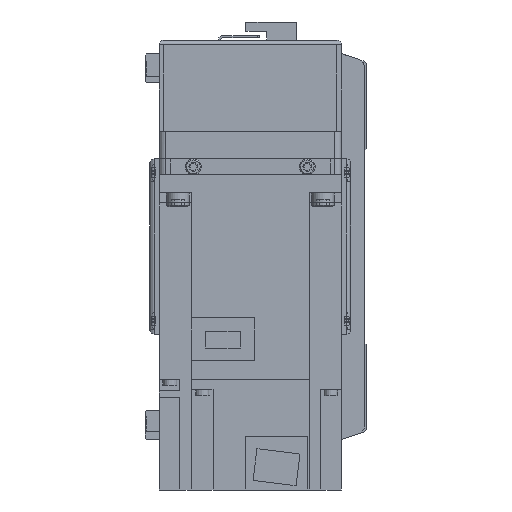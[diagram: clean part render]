
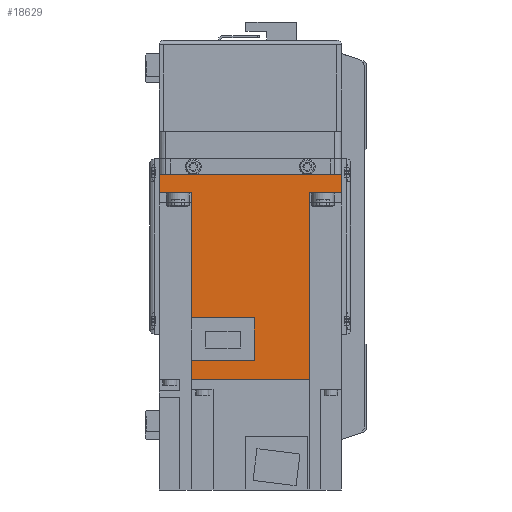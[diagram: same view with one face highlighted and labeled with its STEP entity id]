
A CAD part, left-side view. The second image highlights one B-rep face of the part: STEP entity #18629.
In plain terms, the highlighted planar face has unit normal (-1, 0, 0) as drawn and (1, 0, 0) by its records, which use the part's own axes.
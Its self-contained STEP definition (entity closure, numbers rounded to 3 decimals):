
#2077=ORIENTED_EDGE('',*,*,#7185,.F.);
#2078=ORIENTED_EDGE('',*,*,#7186,.F.);
#2079=ORIENTED_EDGE('',*,*,#7187,.F.);
#2080=ORIENTED_EDGE('',*,*,#7188,.T.);
#2081=ORIENTED_EDGE('',*,*,#7189,.F.);
#2082=ORIENTED_EDGE('',*,*,#7190,.T.);
#2083=ORIENTED_EDGE('',*,*,#7191,.T.);
#2084=ORIENTED_EDGE('',*,*,#7192,.F.);
#2085=ORIENTED_EDGE('',*,*,#7193,.F.);
#2086=ORIENTED_EDGE('',*,*,#7194,.F.);
#2087=ORIENTED_EDGE('',*,*,#7195,.F.);
#2088=ORIENTED_EDGE('',*,*,#7196,.F.);
#7185=EDGE_CURVE('',#9799,#9800,#11653,.T.);
#7186=EDGE_CURVE('',#9801,#9799,#11654,.T.);
#7187=EDGE_CURVE('',#9802,#9801,#11655,.T.);
#7188=EDGE_CURVE('',#9802,#9803,#11656,.T.);
#7189=EDGE_CURVE('',#9804,#9803,#11657,.T.);
#7190=EDGE_CURVE('',#9804,#9805,#11658,.T.);
#7191=EDGE_CURVE('',#9805,#9806,#11659,.T.);
#7192=EDGE_CURVE('',#9807,#9806,#11660,.T.);
#7193=EDGE_CURVE('',#9808,#9807,#11661,.T.);
#7194=EDGE_CURVE('',#9809,#9808,#11662,.T.);
#7195=EDGE_CURVE('',#9810,#9809,#11663,.T.);
#7196=EDGE_CURVE('',#9800,#9810,#11664,.T.);
#9799=VERTEX_POINT('',#28058);
#9800=VERTEX_POINT('',#28059);
#9801=VERTEX_POINT('',#28061);
#9802=VERTEX_POINT('',#28063);
#9803=VERTEX_POINT('',#28065);
#9804=VERTEX_POINT('',#28067);
#9805=VERTEX_POINT('',#28069);
#9806=VERTEX_POINT('',#28071);
#9807=VERTEX_POINT('',#28073);
#9808=VERTEX_POINT('',#28075);
#9809=VERTEX_POINT('',#28077);
#9810=VERTEX_POINT('',#28079);
#11653=LINE('',#28057,#13339);
#11654=LINE('',#28060,#13340);
#11655=LINE('',#28062,#13341);
#11656=LINE('',#28064,#13342);
#11657=LINE('',#28066,#13343);
#11658=LINE('',#28068,#13344);
#11659=LINE('',#28070,#13345);
#11660=LINE('',#28072,#13346);
#11661=LINE('',#28074,#13347);
#11662=LINE('',#28076,#13348);
#11663=LINE('',#28078,#13349);
#11664=LINE('',#28080,#13350);
#13339=VECTOR('',#22365,1000.);
#13340=VECTOR('',#22366,1000.);
#13341=VECTOR('',#22367,1000.);
#13342=VECTOR('',#22368,1000.);
#13343=VECTOR('',#22369,1000.);
#13344=VECTOR('',#22370,1000.);
#13345=VECTOR('',#22371,1000.);
#13346=VECTOR('',#22372,1000.);
#13347=VECTOR('',#22373,1000.);
#13348=VECTOR('',#22374,1000.);
#13349=VECTOR('',#22375,1000.);
#13350=VECTOR('',#22376,1000.);
#15017=EDGE_LOOP('',(#2077,#2078,#2079,#2080,#2081,#2082,#2083,#2084,#2085,
#2086,#2087,#2088));
#16509=FACE_BOUND('',#15017,.T.);
#17894=PLANE('',#19923);
#18629=ADVANCED_FACE('',(#16509),#17894,.F.);
#19923=AXIS2_PLACEMENT_3D('',#28056,#22363,#22364);
#22363=DIRECTION('',(-1.,0.,0.));
#22364=DIRECTION('',(0.,0.,1.));
#22365=DIRECTION('',(0.,0.,1.));
#22366=DIRECTION('',(0.,-1.,0.));
#22367=DIRECTION('',(0.,0.,-1.));
#22368=DIRECTION('',(0.,-1.,0.));
#22369=DIRECTION('',(0.,0.,-1.));
#22370=DIRECTION('',(0.,-1.,0.));
#22371=DIRECTION('',(0.,0.,-1.));
#22372=DIRECTION('',(0.,-1.,0.));
#22373=DIRECTION('',(0.,0.,-1.));
#22374=DIRECTION('',(0.,-1.,0.));
#22375=DIRECTION('',(0.,0.,-1.));
#22376=DIRECTION('',(0.,-1.,0.));
#28056=CARTESIAN_POINT('',(40.,89.8,40.));
#28057=CARTESIAN_POINT('',(40.,81.4,-26.));
#28058=CARTESIAN_POINT('',(40.,81.4,-25.95));
#28059=CARTESIAN_POINT('',(40.,81.4,1.8));
#28060=CARTESIAN_POINT('',(40.,158.,-25.95));
#28061=CARTESIAN_POINT('',(40.,89.8,-25.95));
#28062=CARTESIAN_POINT('',(40.,89.8,40.));
#28063=CARTESIAN_POINT('',(40.,89.8,25.95));
#28064=CARTESIAN_POINT('',(40.,158.,25.95));
#28065=CARTESIAN_POINT('',(40.,8.,25.95));
#28066=CARTESIAN_POINT('',(40.,8.,40.));
#28067=CARTESIAN_POINT('',(40.,8.,40.));
#28068=CARTESIAN_POINT('',(40.,89.8,40.));
#28069=CARTESIAN_POINT('',(40.,0.,40.));
#28070=CARTESIAN_POINT('',(40.,0.,40.));
#28071=CARTESIAN_POINT('',(40.,0.,-40.));
#28072=CARTESIAN_POINT('',(40.,89.8,-40.));
#28073=CARTESIAN_POINT('',(40.,8.,-40.));
#28074=CARTESIAN_POINT('',(40.,8.,40.));
#28075=CARTESIAN_POINT('',(40.,8.,-25.95));
#28076=CARTESIAN_POINT('',(40.,158.,-25.95));
#28077=CARTESIAN_POINT('',(40.,62.8,-25.95));
#28078=CARTESIAN_POINT('',(40.,62.8,1.8));
#28079=CARTESIAN_POINT('',(40.,62.8,1.8));
#28080=CARTESIAN_POINT('',(40.,81.4,1.8));
